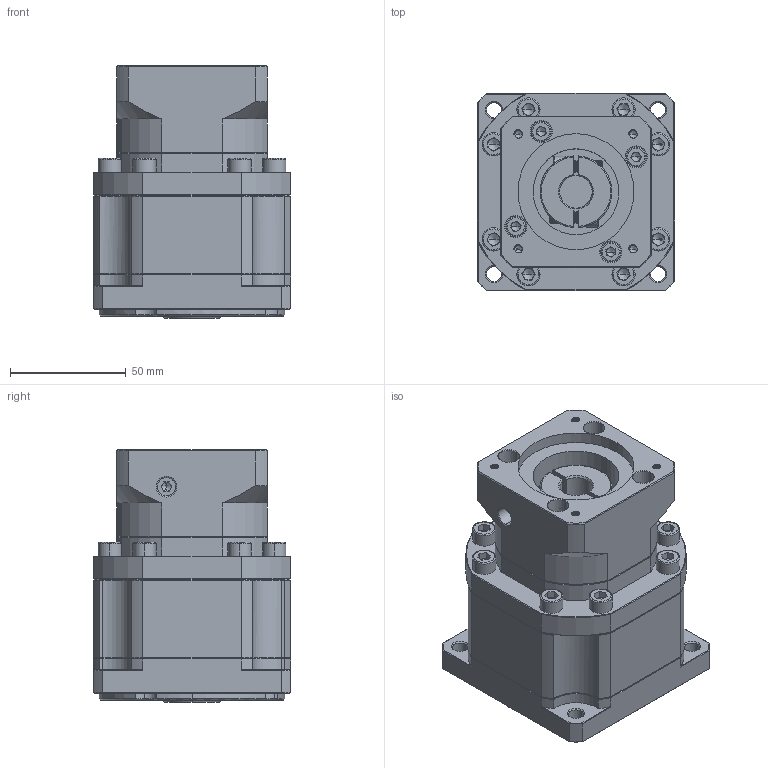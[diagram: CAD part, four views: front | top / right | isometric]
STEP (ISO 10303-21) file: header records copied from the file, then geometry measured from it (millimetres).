
FILE_DESCRIPTION (( 'STEP AP214' ), '1' );
FILE_NAME ('ZB090-K15-L2-P2-14-50-70-M4.step', '2023-08-18T13:40:07', ( '' ), ( '' ), 'SwSTEP 2.0', 'SolidWorks 2016', '' );
FILE_SCHEMA (( 'AUTOMOTIVE_DESIGN' ));
Length unit declared in the file: millimetre
Products named in the file (1): ZB090-K15-L2-P2-14-50-70-M4
Bounding box: 85 x 85 x 109 mm (x, y, z)
Volume: 525303.3 mm3; surface area: 75079.4 mm2
Topology: 6 solids, 6 shells, 2299 faces, 6124 edges, 3920 vertices
Faces by surface type: plane 1178, bspline 416, cylinder 367, cone 316, torus 22
Entity records: 116915 total; most frequent: CARTESIAN_POINT 37528, ORIENTED_EDGE 12160, DIRECTION 9739, EDGE_CURVE 6080, VERTEX_POINT 3920, LINE 3881, VECTOR 3881, AXIS2_PLACEMENT_3D 2929
